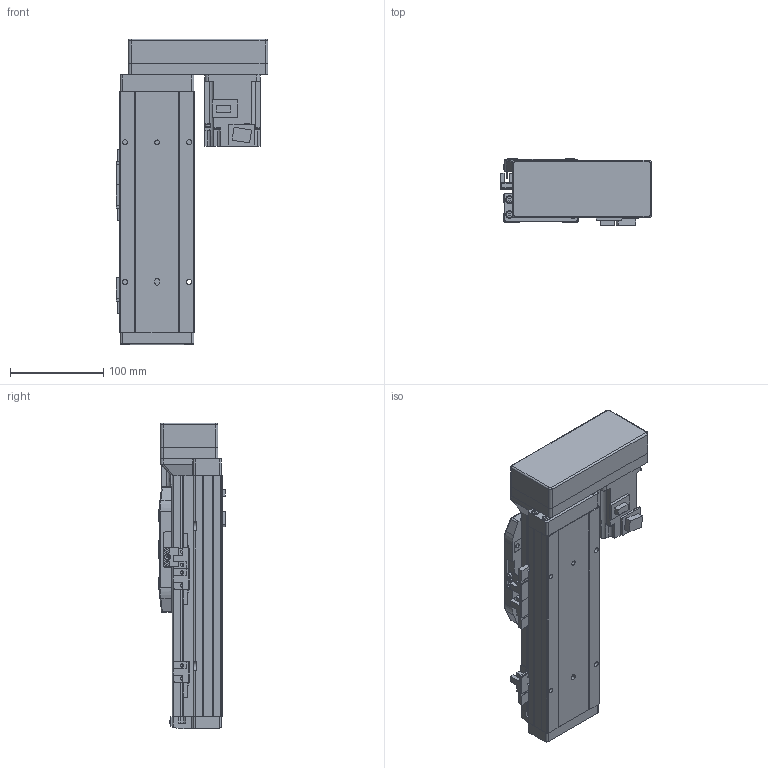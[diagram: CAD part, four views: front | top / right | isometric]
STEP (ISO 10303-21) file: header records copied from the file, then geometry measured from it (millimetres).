
FILE_DESCRIPTION (( 'STEP AP214' ), '1' );
FILE_NAME ('GSH8-100-BL-M20-1.step', '2025-01-07T06:04:48', ( '' ), ( '' ), 'SwSTEP 2.0', 'SolidWorks 2012', '' );
FILE_SCHEMA (( 'AUTOMOTIVE_DESIGN' ));
Length unit declared in the file: millimetre
Products named in the file (5): GSH8-100-BL-M20-1; HG-KR23_200W_Motor; GSH8-GY-004; GSH8-BL-011-100-M20; GSH8-BL-008
Assembly tree (4 placements, depth 2):
  GSH8-100-BL-M20-1
    GSH8-BL-011-100-M20
    GSH8-GY-004
    GSH8-BL-008
    HG-KR23_200W_Motor
Bounding box: 163 x 71.3 x 328.2 mm (x, y, z)
Volume: 1324282.5 mm3; surface area: 271746.1 mm2
Topology: 4 solids, 8 shells, 1070 faces, 2786 edges, 1788 vertices
Faces by surface type: plane 617, cylinder 357, torus 42, cone 26, bspline 24, sphere 4
Entity records: 42138 total; most frequent: CARTESIAN_POINT 9593, DIRECTION 5644, ORIENTED_EDGE 5556, EDGE_CURVE 2778, AXIS2_PLACEMENT_3D 1891, VECTOR 1862, LINE 1862, VERTEX_POINT 1784
